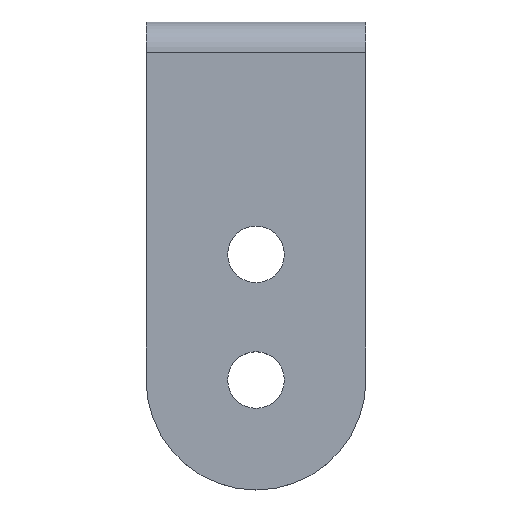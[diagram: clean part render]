
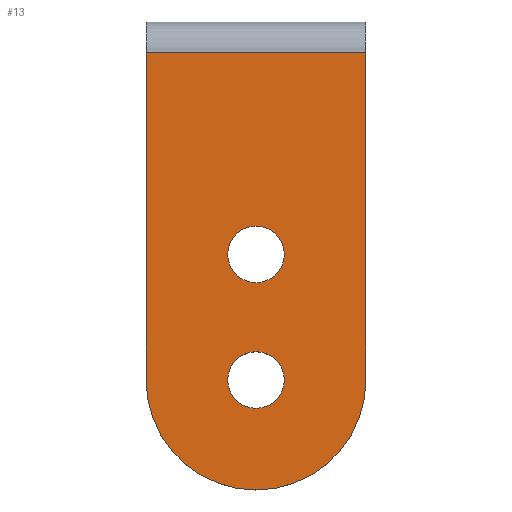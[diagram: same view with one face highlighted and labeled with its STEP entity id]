
A CAD part, top view. The second image highlights one B-rep face of the part: STEP entity #13.
In plain terms, the highlighted planar face has unit normal (0, 0, 1).
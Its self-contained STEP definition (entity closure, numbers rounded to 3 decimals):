
#4 = ORIENTED_EDGE ( 'NONE', *, *, #221, .F. ) ;
#10 = ORIENTED_EDGE ( 'NONE', *, *, #211, .F. ) ;
#11 = EDGE_LOOP ( 'NONE', ( #10, #210 ) ) ;
#13 = ADVANCED_FACE ( 'NONE', ( #291, #290, #289 ), #288, .T. ) ;
#14 = EDGE_LOOP ( 'NONE', ( #15, #4 ) ) ;
#15 = ORIENTED_EDGE ( 'NONE', *, *, #16, .F. ) ;
#16 = EDGE_CURVE ( 'NONE', #215, #222, #282, .T. ) ;
#151 = ORIENTED_EDGE ( 'NONE', *, *, #183, .T. ) ;
#183 = EDGE_CURVE ( 'NONE', #202, #265, #533, .T. ) ;
#198 = ORIENTED_EDGE ( 'NONE', *, *, #199, .T. ) ;
#199 = EDGE_CURVE ( 'NONE', #212, #202, #575, .T. ) ;
#202 = VERTEX_POINT ( 'NONE', #565 ) ;
#204 = EDGE_CURVE ( 'NONE', #266, #212, #564, .T. ) ;
#205 = ORIENTED_EDGE ( 'NONE', *, *, #259, .T. ) ;
#206 = EDGE_LOOP ( 'NONE', ( #205, #213, #198, #151 ) ) ;
#210 = ORIENTED_EDGE ( 'NONE', *, *, #226, .F. ) ;
#211 = EDGE_CURVE ( 'NONE', #227, #230, #612, .T. ) ;
#212 = VERTEX_POINT ( 'NONE', #606 ) ;
#213 = ORIENTED_EDGE ( 'NONE', *, *, #204, .T. ) ;
#215 = VERTEX_POINT ( 'NONE', #591 ) ;
#221 = EDGE_CURVE ( 'NONE', #222, #215, #640, .T. ) ;
#222 = VERTEX_POINT ( 'NONE', #635 ) ;
#226 = EDGE_CURVE ( 'NONE', #230, #227, #629, .T. ) ;
#227 = VERTEX_POINT ( 'NONE', #624 ) ;
#230 = VERTEX_POINT ( 'NONE', #620 ) ;
#259 = EDGE_CURVE ( 'NONE', #265, #266, #689, .T. ) ;
#265 = VERTEX_POINT ( 'NONE', #726 ) ;
#266 = VERTEX_POINT ( 'NONE', #725 ) ;
#279 = DIRECTION ( 'NONE',  ( 1., 0., 0. ) ) ;
#280 = DIRECTION ( 'NONE',  ( 0., 0., 1. ) ) ;
#281 = AXIS2_PLACEMENT_3D ( 'NONE', #286, #280, #279 ) ;
#282 = CIRCLE ( 'NONE', #281, 4.5 ) ;
#283 = DIRECTION ( 'NONE',  ( 1., 0., 0. ) ) ;
#284 = DIRECTION ( 'NONE',  ( 0., 0., 1. ) ) ;
#285 = CARTESIAN_POINT ( 'NONE',  ( 0., 0., 0. ) ) ;
#286 = CARTESIAN_POINT ( 'NONE',  ( 0., 20., 0. ) ) ;
#287 = AXIS2_PLACEMENT_3D ( 'NONE', #285, #284, #283 ) ;
#288 = PLANE ( 'NONE',  #287 ) ;
#289 = FACE_OUTER_BOUND ( 'NONE', #206, .T. ) ;
#290 = FACE_BOUND ( 'NONE', #11, .T. ) ;
#291 = FACE_BOUND ( 'NONE', #14, .T. ) ;
#529 = DIRECTION ( 'NONE',  ( 1., 0., 0. ) ) ;
#530 = DIRECTION ( 'NONE',  ( 0., 0., 1. ) ) ;
#531 = CARTESIAN_POINT ( 'NONE',  ( 0., 0., 0. ) ) ;
#532 = AXIS2_PLACEMENT_3D ( 'NONE', #531, #530, #529 ) ;
#533 = CIRCLE ( 'NONE', #532, 17.5 ) ;
#561 = DIRECTION ( 'NONE',  ( -1., 0., 0. ) ) ;
#562 = VECTOR ( 'NONE', #561, 1000. ) ;
#563 = CARTESIAN_POINT ( 'NONE',  ( 17.5, 52.1, 0. ) ) ;
#564 = LINE ( 'NONE', #563, #562 ) ;
#565 = CARTESIAN_POINT ( 'NONE',  ( -17.5, 0., 0. ) ) ;
#572 = DIRECTION ( 'NONE',  ( 0., -1., 0. ) ) ;
#573 = VECTOR ( 'NONE', #572, 1000. ) ;
#574 = CARTESIAN_POINT ( 'NONE',  ( -17.5, 0., 0. ) ) ;
#575 = LINE ( 'NONE', #574, #573 ) ;
#591 = CARTESIAN_POINT ( 'NONE',  ( 4.5, 20., 0. ) ) ;
#606 = CARTESIAN_POINT ( 'NONE',  ( -17.5, 52.1, 0. ) ) ;
#607 = DIRECTION ( 'NONE',  ( 1., 0., 0. ) ) ;
#608 = DIRECTION ( 'NONE',  ( 0., 0., 1. ) ) ;
#609 = CARTESIAN_POINT ( 'NONE',  ( 0., 0., 0. ) ) ;
#610 = AXIS2_PLACEMENT_3D ( 'NONE', #609, #608, #607 ) ;
#612 = CIRCLE ( 'NONE', #610, 4.5 ) ;
#620 = CARTESIAN_POINT ( 'NONE',  ( -4.5, 0., 0. ) ) ;
#624 = CARTESIAN_POINT ( 'NONE',  ( 4.5, 0., 0. ) ) ;
#625 = DIRECTION ( 'NONE',  ( 1., 0., 0. ) ) ;
#626 = DIRECTION ( 'NONE',  ( 0., 0., 1. ) ) ;
#627 = CARTESIAN_POINT ( 'NONE',  ( 0., 0., 0. ) ) ;
#628 = AXIS2_PLACEMENT_3D ( 'NONE', #627, #626, #625 ) ;
#629 = CIRCLE ( 'NONE', #628, 4.5 ) ;
#635 = CARTESIAN_POINT ( 'NONE',  ( -4.5, 20., 0. ) ) ;
#636 = DIRECTION ( 'NONE',  ( 1., 0., 0. ) ) ;
#637 = DIRECTION ( 'NONE',  ( 0., 0., 1. ) ) ;
#638 = CARTESIAN_POINT ( 'NONE',  ( 0., 20., 0. ) ) ;
#639 = AXIS2_PLACEMENT_3D ( 'NONE', #638, #637, #636 ) ;
#640 = CIRCLE ( 'NONE', #639, 4.5 ) ;
#686 = DIRECTION ( 'NONE',  ( 0., 1., 0. ) ) ;
#687 = VECTOR ( 'NONE', #686, 1000. ) ;
#688 = CARTESIAN_POINT ( 'NONE',  ( 17.5, 0., 0. ) ) ;
#689 = LINE ( 'NONE', #688, #687 ) ;
#725 = CARTESIAN_POINT ( 'NONE',  ( 17.5, 52.1, 0. ) ) ;
#726 = CARTESIAN_POINT ( 'NONE',  ( 17.5, 0., 0. ) ) ;
